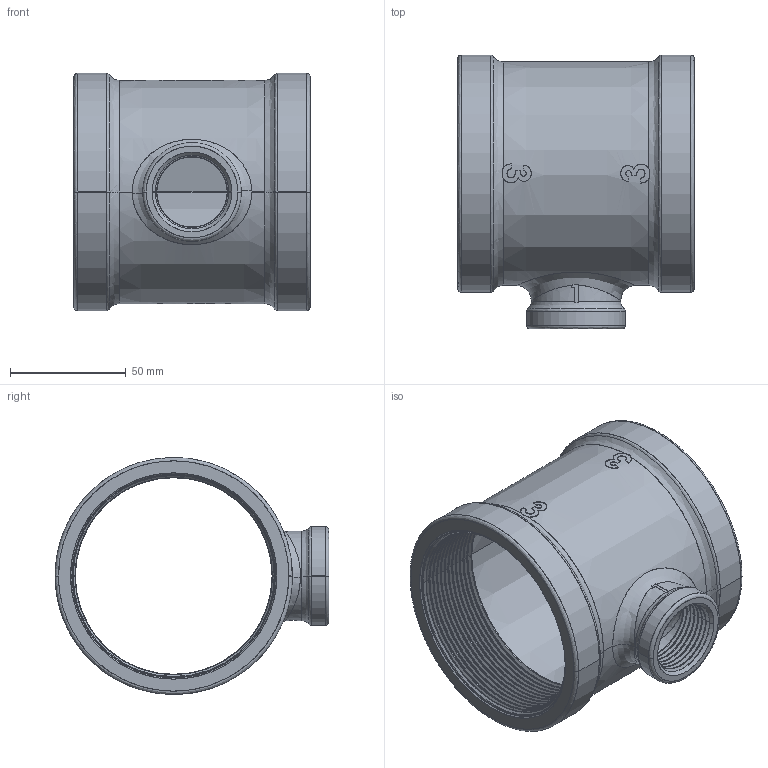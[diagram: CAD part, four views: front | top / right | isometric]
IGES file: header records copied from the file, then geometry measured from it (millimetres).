
Start section: SolidWorks IGES file using analytic representation for surfaces
Global section: file name: C:\Users\Joel Rosa\Desktop\Tubulação\12-45-XXX\12-45-052.IGS; native system: SolidWorks 2011; preprocessor: SolidWorks 2011; author: Joel Rosa; date: 121212.234642; units: millimetre
Bounding box: 102 x 118.2 x 102.4 mm (x, y, z)
Surface area: 79888.6 mm2 (no closed solid volume)
Topology: 0 solids, 0 shells, 476 faces, 4743 edges, 4743 vertices
Faces by surface type: bspline 311, revolution 165
